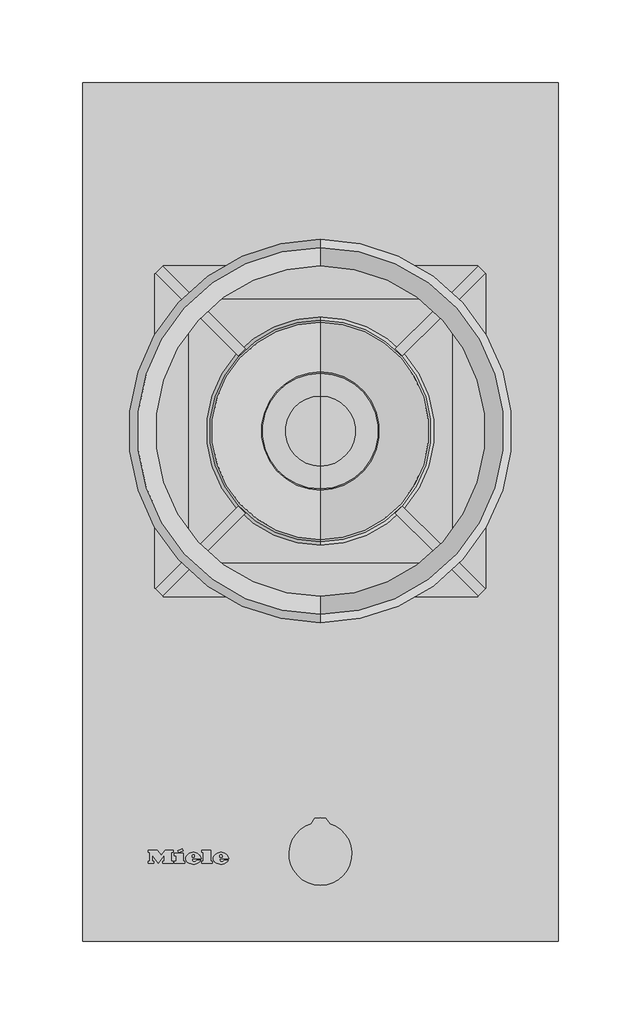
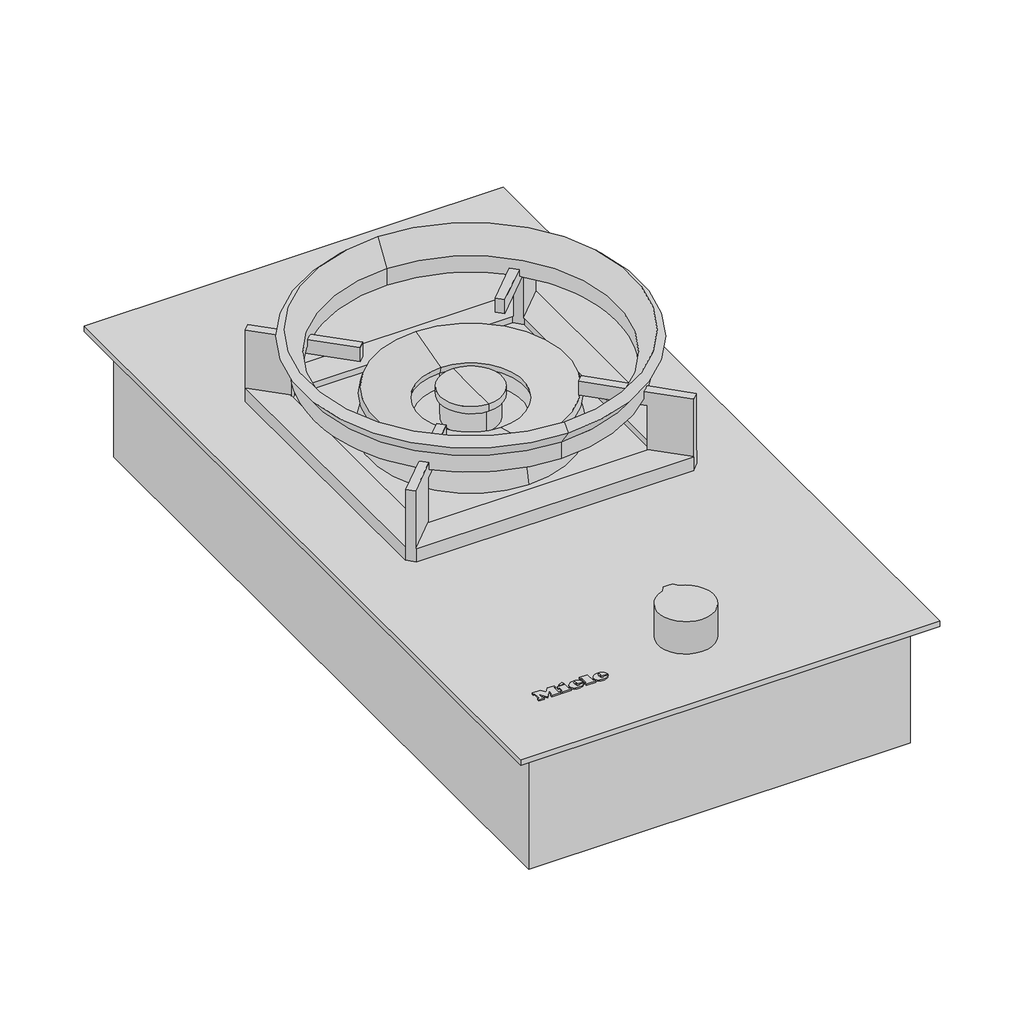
# Not in any storey: 1 proxy.
"""IFC4 building model written with IfcOpenShell, lengths in millimetres."""

from ifc_helpers import new_model, si_unit, origin, place, context, project, spatial, transform, mapped, element, save
from components import specialty_equipment_dbccff51

model = new_model("IFC4")

# Units and contexts
model_context = context("Model", 3, world=origin())
ifc_project = project(units=[si_unit("LENGTHUNIT", "METRE", prefix="MILLI")], contexts=[model_context])

# Site, building
site = spatial("IfcSite", under=ifc_project)
building = spatial("IfcBuilding", under=site)

# Proxy
placement = place(None, origin())
specialty_equipment_shape = specialty_equipment_dbccff51(model_context)
element("IfcBuildingElementProxy", 1, Name="12303280_SG_CS7151FL : 27715150_SG_12303280_CS7151FL", ObjectType="12303280_SG_CS7151FL : 27715150_SG_12303280_CS7151FL", at=placement, inside=building, context=model_context, shape_type="MappedRepresentation", body=[
    mapped(specialty_equipment_shape, transform((0.0, 0.0, 0.0), x_axis=(1.0, 0.0, 0.0), y_axis=(0.0, 1.0, 0.0), z_axis=(0.0, 0.0, 1.0))),
])

save(model, "model.ifc")
